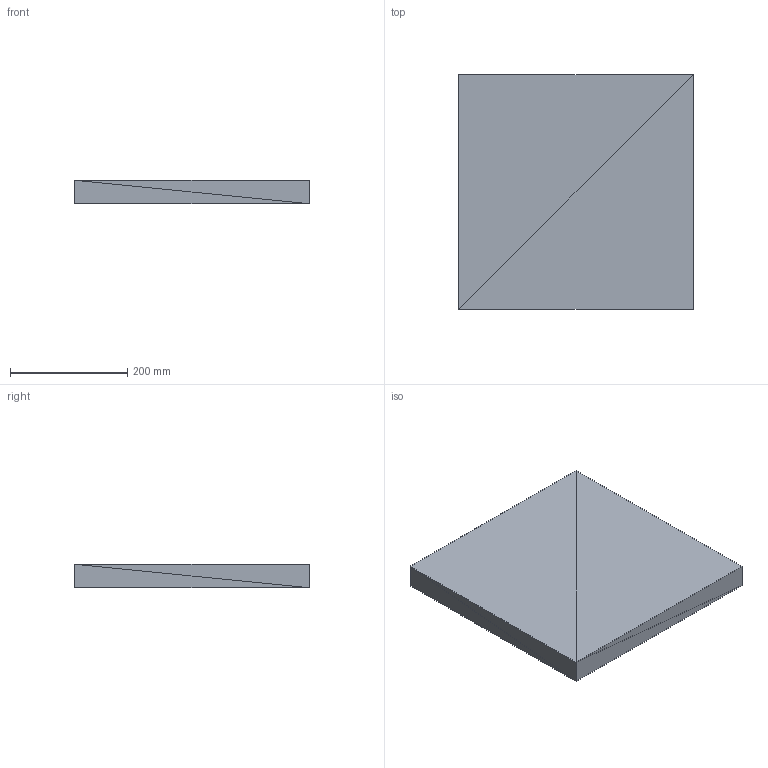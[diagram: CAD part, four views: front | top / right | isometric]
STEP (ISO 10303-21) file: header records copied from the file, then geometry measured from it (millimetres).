
FILE_DESCRIPTION(('ISINAC STEP AP214'),'2;1');
FILE_NAME('ISINAC_C.400_40mm_ADHESIVO','2026-05-03T10:49:19',('ISINAC'),('www.isinac.com'),'ISINAC BIM Generator 1.0','','');
FILE_SCHEMA(('AUTOMOTIVE_DESIGN'));
Length unit declared in the file: millimetre
Products named in the file (1): ISINAC_C.400_40mm_ADHESIVO
Bounding box: 400 x 400 x 40 mm (x, y, z)
Surface area: 384000 mm2 (no closed solid volume)
Topology: 0 solids, 12 shells, 12 faces, 36 edges, 36 vertices
Faces by surface type: plane 12
Entity records: 145 total; most frequent: CARTESIAN_POINT 48, DIRECTION 24, POLY_LOOP 12, FACE_OUTER_BOUND 12, AXIS2_PLACEMENT_3D 12, PLANE 12, FACE_SURFACE 12, CLOSED_SHELL 1
